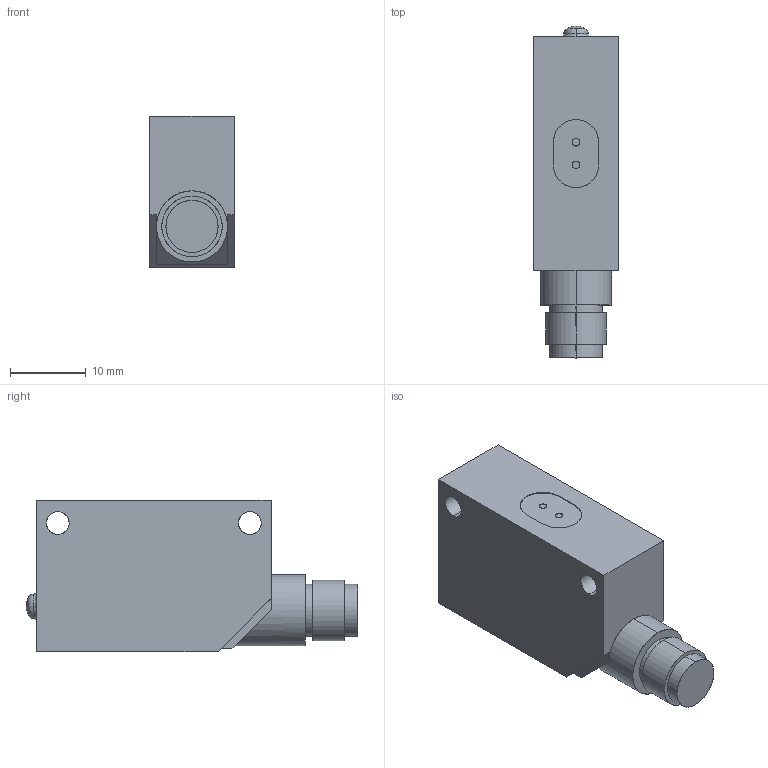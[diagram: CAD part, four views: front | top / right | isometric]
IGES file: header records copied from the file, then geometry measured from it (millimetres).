
Start section: SolidWorks IGES file using analytic representation for surfaces
Global section: file name: C:\catalog\cx-f121-z-w_IGS.IGS; native system: SolidWorks 2022; preprocessor: SolidWorks 2022; author: 4051215; date: 250617.113636; units: millimetre
Bounding box: 11.2 x 43.9 x 20 mm (x, y, z)
Surface area: 2952 mm2 (no closed solid volume)
Topology: 0 solids, 0 shells, 82 faces, 918 edges, 914 vertices
Faces by surface type: bspline 60, revolution 22
